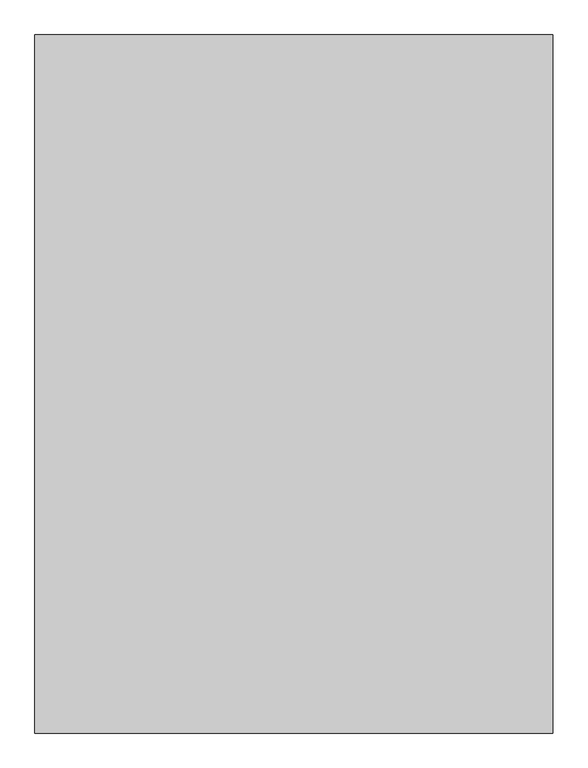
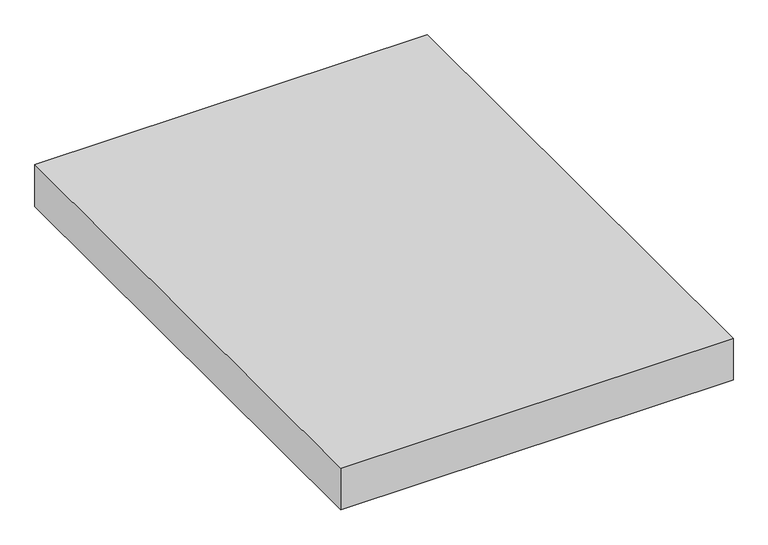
"""IFC4 building model written with IfcOpenShell, lengths in millimetres: proxy geometry, Modelos genéricos 115 : Modelos genéricos 77."""

from ifc_helpers import new_model, si_unit, frame, origin, place, context, project, spatial, polyline, outline, extrude, source, transform, mapped, element, save


def generic_models_5fdfc707(model_context):
    return source(origin(), model_context, "Body", "SweptSolid", [
        extrude(outline(polyline([(-5944.2825148, -6781.1177116), (-5944.2825148, -7981.1177116), (-6834.2825148, -7981.1177116), (-6834.2825148, -6781.1177116), (-5944.2825148, -6781.1177116)])), frame((0.0, 0.0, 600.0), z_axis=(0.0, 0.0, 1.0), x_axis=(1.0, 0.0, 0.0)), (0.0, 0.0, 1.0), 100.0),
    ])


if __name__ == "__main__":
    model = new_model("IFC4")
    model_context = context("Model", 3, world=origin())
    ifc_project = project(units=[si_unit("LENGTHUNIT", "METRE", prefix="MILLI")], contexts=[model_context])
    site = spatial("IfcSite", under=ifc_project)
    building = spatial("IfcBuilding", under=site)
    placement = place(None, origin())
    generic_models_shape = generic_models_5fdfc707(model_context)
    element("IfcBuildingElementProxy", 1, Name="Modelos genéricos 115 : Modelos genéricos 77", ObjectType="Modelos genéricos 115 : Modelos genéricos 77", at=placement, inside=building, context=model_context, shape_type="MappedRepresentation", body=[
        mapped(generic_models_shape, transform((0.0, 0.0, 0.0), x_axis=(1.0, 0.0, 0.0), y_axis=(0.0, 1.0, 0.0), z_axis=(0.0, 0.0, 1.0))),
    ])
    save(model, "model.ifc")
